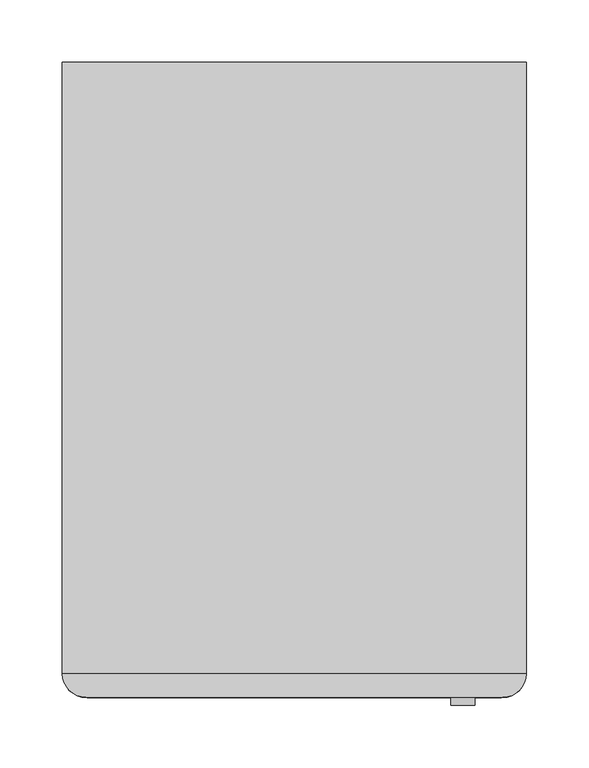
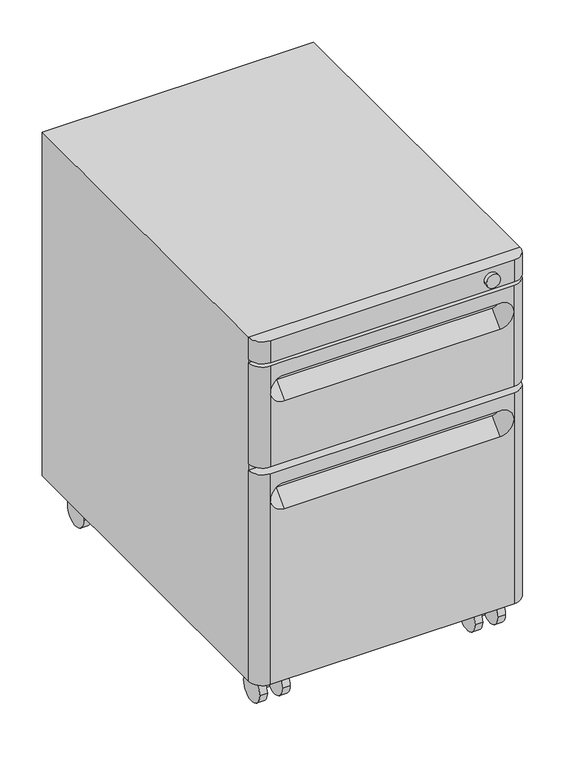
"""IFC4 building model written with IfcOpenShell, lengths in millimetres: furniture geometry."""

from ifc_helpers import new_model, si_unit, point, frame, frame_2d, origin, place, context, project, spatial, polyline, circle_curve, trimmed, segment, composite_curve, outline, extrude, source, transform, mapped, element, save
from ifc_brep_helpers import plane_surface, cylinder_surface, spline_surface, advanced_brep


def furniture_84c54a78(model_context):
    return source(origin(), model_context, "Body", "SolidModel", [
        advanced_brep(
        [(-166.6875, -263.525003, 354.0125), (166.6875, -263.525003, 354.0125), (185.7375, -244.475003, 354.0125), (-185.7375, -244.475003, 354.0125), (-166.6875, -263.525003, 49.2125), (-185.7375, -244.475003, 49.2125), (185.7375, -244.475003, 49.2125), (166.6875, -263.525003, 49.2125), (-166.6875, -263.525003, 315.9125), (-147.6375, -263.525003, 334.9625), (147.6375, -263.525003, 334.9625), (166.6875, -263.525003, 315.9125), (147.6375, -263.525003, 296.8625), (-147.6375, -263.525003, 296.8625), (147.6375, -244.475003, 334.9625), (-147.6375, -244.475003, 334.9625), (-147.6375, -244.475003, 315.9125), (147.6375, -244.475003, 315.9125)],
        [
            (0, 1),
            (1, 2, circle_curve(frame((166.6875, -244.475003, 354.0125), z_axis=(0.0, 0.0, 1.0), x_axis=(0.0, -1.0, 0.0)), 19.05)),
            (2, 3),
            (3, 0, circle_curve(frame((-166.6875, -244.475003, 354.0125), z_axis=(0.0, 0.0, 1.0), x_axis=(0.0, -1.0, 0.0)), 19.05)),
            (4, 5, circle_curve(frame((-166.6875, -244.475003, 49.2125), z_axis=(0.0, 0.0, -1.0), x_axis=(0.0, -1.0, 0.0)), 19.05)),
            (5, 6),
            (6, 7, circle_curve(frame((166.6875, -244.475003, 49.2125), z_axis=(0.0, 0.0, -1.0), x_axis=(0.0, -1.0, 0.0)), 19.05)),
            (7, 4),
            (0, 8),
            (8, 9, circle_curve(frame((-147.6375, -263.525003, 315.9125), z_axis=(0.0, 1.0, 0.0), x_axis=(0.0, 0.0, 1.0)), 19.05)),
            (9, 10),
            (10, 11, circle_curve(frame((147.6375, -263.525003, 315.9125), z_axis=(0.0, 1.0, 0.0), x_axis=(0.0, 0.0, 1.0)), 19.05)),
            (11, 1),
            (7, 11),
            (11, 12, circle_curve(frame((147.6375, -263.525003, 315.9125), z_axis=(0.0, 1.0, 0.0), x_axis=(0.0, 0.0, 1.0)), 19.05)),
            (12, 13),
            (13, 8, circle_curve(frame((-147.6375, -263.525003, 315.9125), z_axis=(0.0, 1.0, 0.0), x_axis=(0.0, 0.0, 1.0)), 19.05)),
            (8, 4),
            (6, 2),
            (5, 3),
            (14, 15),
            (15, 16, circle_curve(frame((-147.6375, -244.475003, 325.4375), z_axis=(0.0, -1.0, 0.0), x_axis=(0.0, 0.0, 1.0)), 9.525)),
            (16, 17),
            (17, 14, circle_curve(frame((147.6375, -244.475003, 325.4375), z_axis=(0.0, -1.0, 0.0), x_axis=(0.0, 0.0, 1.0)), 9.525)),
            (9, 15),
            (14, 10),
            (17, 12),
            (16, 13),
        ],
        [
            plane_surface(frame((166.6875, -263.525003, 354.0125), z_axis=(0.0, 0.0, 1.0), x_axis=(1.0, 0.0, 0.0))),
            plane_surface(frame((166.6875, -263.525003, 49.2125), z_axis=(0.0, 0.0, -1.0), x_axis=(-1.0, 0.0, 0.0))),
            plane_surface(frame((-166.6875, -263.525003, 354.0125), z_axis=(0.0, -1.0, 0.0), x_axis=(0.0, 0.0, -1.0))),
            cylinder_surface(frame((166.6875, -244.475003, 49.2125), z_axis=(0.0, 0.0, 1.0), x_axis=(0.0, -1.0, 0.0)), 19.05),
            plane_surface(frame((185.7375, -244.475003, 354.0125), z_axis=(0.0, 1.0, 0.0), x_axis=(0.0, 0.0, -1.0))),
            cylinder_surface(frame((-166.6875, -244.475003, 49.2125), z_axis=(0.0, 0.0, 1.0), x_axis=(0.0, -1.0, 0.0)), 19.05),
            plane_surface(frame((0.0, -263.525003, 334.9625), z_axis=(0.0, 0.0, -1.0), x_axis=(1.0, 0.0, 0.0))),
            spline_surface(1, 2, [[(147.6375, -263.525003, 334.9625), (166.68749999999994, -263.525003, 334.9625), (166.68749999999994, -263.525003, 315.9125), (166.6874999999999, -263.525003, 296.86250000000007), (147.6375, -263.525003, 296.8625)], [(147.6375, -244.475003, 334.9625), (157.16249999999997, -244.475003, 334.9625), (157.16249999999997, -244.475003, 325.4375), (157.16249999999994, -244.475003, 315.9125), (147.6375, -244.475003, 315.9125)]], [2, 2], [3, 2, 3], [0.0, 1.0], [0.0, 1.0, 2.0], weights=[[1.0, 0.7071067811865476, 1.0, 0.7071067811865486, 1.0], [1.0, 0.7071067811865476, 1.0, 0.7071067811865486, 1.0]]),
            plane_surface(frame((0.0, -263.525003, 296.8625), z_axis=(0.0, -0.7071067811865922, 0.7071067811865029), x_axis=(-1.0, 0.0, 0.0))),
            spline_surface(1, 2, [[(-147.6375, -263.525003, 296.8625), (-166.6875, -263.525003, 296.8625), (-166.6875, -263.525003, 315.9125), (-166.68750000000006, -263.525003, 334.96250000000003), (-147.6375, -263.525003, 334.9625)], [(-147.6375, -244.475003, 315.9125), (-157.16249999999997, -244.475003, 315.9125), (-157.16249999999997, -244.475003, 325.4375), (-157.1625, -244.475003, 334.9625), (-147.6375, -244.475003, 334.9625)]], [2, 2], [3, 2, 3], [0.0, 1.0], [0.0, 1.0, 2.0], weights=[[1.0, 0.7071067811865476, 1.0, 0.7071067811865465, 1.0], [1.0, 0.7071067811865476, 1.0, 0.7071067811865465, 1.0]]),
        ],
        [
            (0, [[1, 2, 3, 4]]),
            (1, [[5, 6, 7, 8]]),
            (2, [[-1, 9, 10, 11, 12, 13]]),
            (2, [[-8, 14, 15, 16, 17, 18]]),
            (3, [[-2, -13, -14, -7, 19]]),
            (4, [[-3, -19, -6, 20], [21, 22, 23, 24]]),
            (5, [[-4, -20, -5, -18, -9]]),
            (6, [[25, -21, 26, -11]]),
            (7, [[-26, -24, 27, -15, -12]]),
            (8, [[-27, -23, 28, -16]]),
            (9, [[-25, -10, -17, -28, -22]]),
        ],
    ),
        advanced_brep(
        [(166.6875, -263.525003, 509.5875), (185.7375, -244.475003, 509.5875), (-185.7375, -244.475003, 509.5875), (-166.6875, -263.525003, 509.5875), (166.6875, -263.525003, 363.5375121), (-166.6875, -263.525003, 363.5375121), (-185.7375, -244.475003, 363.5375121), (185.7375, -244.475003, 363.5375121), (166.6875, -263.525003, 471.4875), (-147.6375, -244.475003, 490.5375), (-147.6375, -244.475003, 471.4875), (147.6375, -244.475003, 471.4875), (147.6375, -244.475003, 490.5375), (-166.6875, -263.525003, 471.4875), (-147.6375, -263.525003, 490.5375), (147.6375, -263.525003, 490.5375), (147.6375, -263.525003, 452.4375), (-147.6375, -263.525003, 452.4375)],
        [
            (0, 1, circle_curve(frame((166.6875, -244.475003, 509.5875), z_axis=(0.0, 0.0, 1.0), x_axis=(0.0, -1.0, 0.0)), 19.05)),
            (1, 2),
            (2, 3, circle_curve(frame((-166.6875, -244.475003, 509.5875), z_axis=(0.0, 0.0, 1.0), x_axis=(0.0, -1.0, 0.0)), 19.05)),
            (3, 0),
            (4, 5),
            (5, 6, circle_curve(frame((-166.6875, -244.475003, 363.5375121), z_axis=(0.0, 0.0, -1.0), x_axis=(0.0, -1.0, 0.0)), 19.05)),
            (6, 7),
            (7, 4, circle_curve(frame((166.6875, -244.475003, 363.5375121), z_axis=(0.0, 0.0, -1.0), x_axis=(0.0, -1.0, 0.0)), 19.05)),
            (0, 8),
            (8, 4),
            (7, 1),
            (6, 2),
            (9, 10, circle_curve(frame((-147.6375, -244.475003, 481.0125), z_axis=(0.0, -1.0, 0.0), x_axis=(0.0, 0.0, 1.0)), 9.525)),
            (10, 11),
            (11, 12, circle_curve(frame((147.6375, -244.475003, 481.0125), z_axis=(0.0, -1.0, 0.0), x_axis=(0.0, 0.0, 1.0)), 9.525)),
            (12, 9),
            (5, 13),
            (13, 3),
            (13, 14, circle_curve(frame((-147.6375, -263.525003, 471.4875), z_axis=(0.0, 1.0, 0.0), x_axis=(0.0, 0.0, 1.0)), 19.05)),
            (14, 15),
            (15, 8, circle_curve(frame((147.6375, -263.525003, 471.4875), z_axis=(0.0, 1.0, 0.0), x_axis=(0.0, 0.0, 1.0)), 19.05)),
            (8, 16, circle_curve(frame((147.6375, -263.525003, 471.4875), z_axis=(0.0, 1.0, 0.0), x_axis=(0.0, 0.0, 1.0)), 19.05)),
            (16, 17),
            (17, 13, circle_curve(frame((-147.6375, -263.525003, 471.4875), z_axis=(0.0, 1.0, 0.0), x_axis=(0.0, 0.0, 1.0)), 19.05)),
            (17, 10),
            (9, 14),
            (12, 15),
            (11, 16),
        ],
        [
            plane_surface(frame((166.6875, -263.525003, 509.5875), z_axis=(0.0, 0.0, 1.0), x_axis=(1.0, 0.0, 0.0))),
            plane_surface(frame((166.6875, -263.525003, 363.5375121), z_axis=(0.0, 0.0, -1.0), x_axis=(-1.0, 0.0, 0.0))),
            cylinder_surface(frame((166.6875, -244.475003, 363.5375121), z_axis=(0.0, 0.0, 1.0), x_axis=(0.0, -1.0, 0.0)), 19.05),
            plane_surface(frame((185.7375, -244.475003, 509.5875), z_axis=(0.0, 1.0, 0.0), x_axis=(0.0, 0.0, -1.0))),
            cylinder_surface(frame((-166.6875, -244.475003, 363.5375121), z_axis=(0.0, 0.0, 1.0), x_axis=(0.0, -1.0, 0.0)), 19.05),
            plane_surface(frame((-166.6875, -263.525003, 509.5875), z_axis=(0.0, -1.0, 0.0), x_axis=(0.0, 0.0, -1.0))),
            spline_surface(1, 2, [[(-147.6375, -263.525003, 452.4375), (-166.6875, -263.525003, 452.4375), (-166.6875, -263.525003, 471.4875), (-166.6875, -263.525003, 490.5375), (-147.6375, -263.525003, 490.5375)], [(-147.6375, -244.475003, 471.4875), (-157.16249999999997, -244.475003, 471.4875), (-157.16249999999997, -244.475003, 481.0125), (-157.16249999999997, -244.475003, 490.53749999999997), (-147.6375, -244.475003, 490.5375)]], [2, 2], [3, 2, 3], [0.0, 1.0], [0.0, 1.0, 2.0], weights=[[1.0, 0.7071067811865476, 1.0, 0.7071067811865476, 1.0], [1.0, 0.7071067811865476, 1.0, 0.7071067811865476, 1.0]]),
            plane_surface(frame((0.0, -263.525003, 490.5375), z_axis=(0.0, 0.0, -1.0), x_axis=(1.0, 0.0, 0.0))),
            spline_surface(1, 2, [[(147.6375, -263.525003, 490.5375), (166.6875, -263.525003, 490.5375), (166.6875, -263.525003, 471.4875), (166.6875, -263.525003, 452.4375), (147.6375, -263.525003, 452.4375)], [(147.6375, -244.475003, 490.5375), (157.16250000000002, -244.475003, 490.5375), (157.16250000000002, -244.475003, 481.0125), (157.16250000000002, -244.475003, 471.48749999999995), (147.6375, -244.475003, 471.4875)]], [2, 2], [3, 2, 3], [0.0, 1.0], [0.0, 1.0, 2.0], weights=[[1.0, 0.7071067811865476, 1.0, 0.7071067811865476, 1.0], [1.0, 0.7071067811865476, 1.0, 0.7071067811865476, 1.0]]),
            plane_surface(frame((0.0, -263.525003, 452.4375), z_axis=(0.0, -0.7071067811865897, 0.7071067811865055), x_axis=(-1.0, 0.0, 0.0))),
        ],
        [
            (0, [[1, 2, 3, 4]]),
            (1, [[5, 6, 7, 8]]),
            (2, [[-1, 9, 10, -8, 11]]),
            (3, [[-2, -11, -7, 12], [13, 14, 15, 16]]),
            (4, [[-3, -12, -6, 17, 18]]),
            (5, [[-4, -18, 19, 20, 21, -9]]),
            (5, [[-5, -10, 22, 23, 24, -17]]),
            (6, [[25, -13, 26, -19, -24]]),
            (7, [[-26, -16, 27, -20]]),
            (8, [[-27, -15, 28, -22, -21]]),
            (9, [[-25, -23, -28, -14]]),
        ],
    ),
        extrude(outline(composite_curve([segment(trimmed(circle_curve(frame_2d((196.056253, 19.05)), 19.05), [point((177.006253, 19.05))], [point((215.106253, 19.05))], False, "CARTESIAN"), True, "CONTINUOUS"), segment(trimmed(circle_curve(frame_2d((196.056253, 19.05)), 19.05), [point((215.106253, 19.05))], [point((177.006253, 19.05))], False, "CARTESIAN"), True, "CONTINUOUS")], self_intersect=False)), frame((126.6825, 0.0, 0.0), z_axis=(1.0, 0.0, 0.0), x_axis=(0.0, 1.0, 0.0)), (0.0, 0.0, 1.0), 10.31875),
        extrude(outline(composite_curve([segment(trimmed(circle_curve(frame_2d((196.056253, 19.05)), 19.05), [point((177.006253, 19.05))], [point((215.106253, 19.05))], False, "CARTESIAN"), True, "CONTINUOUS"), segment(trimmed(circle_curve(frame_2d((196.056253, 19.05)), 19.05), [point((215.106253, 19.05))], [point((177.006253, 19.05))], False, "CARTESIAN"), True, "CONTINUOUS")], self_intersect=False)), frame((157.63875, 0.0, 0.0), z_axis=(1.0, 0.0, 0.0), x_axis=(0.0, 1.0, 0.0)), (0.0, 0.0, 1.0), 10.31875),
        extrude(outline(composite_curve([segment(trimmed(circle_curve(frame_2d((147.32, 208.756253)), 10.31875), [point((147.32, 198.437503))], [point((147.32, 219.075003))], False, "CARTESIAN"), True, "CONTINUOUS"), segment(trimmed(circle_curve(frame_2d((147.32, 208.756253)), 10.31875), [point((147.32, 219.075003))], [point((147.32, 198.437503))], False, "CARTESIAN"), True, "CONTINUOUS")], self_intersect=False)), frame((0.0, 0.0, 10.31875), z_axis=(0.0, 0.0, 1.0), x_axis=(1.0, 0.0, 0.0)), (0.0, 0.0, 1.0), 38.89375),
        extrude(outline(composite_curve([segment(trimmed(circle_curve(frame_2d((196.056253, 19.05)), 19.05), [point((177.006253, 19.05))], [point((215.106253, 19.05))], False, "CARTESIAN"), True, "CONTINUOUS"), segment(trimmed(circle_curve(frame_2d((196.056253, 19.05)), 19.05), [point((215.106253, 19.05))], [point((177.006253, 19.05))], False, "CARTESIAN"), True, "CONTINUOUS")], self_intersect=False)), frame((-167.9575, 0.0, 0.0), z_axis=(1.0, 0.0, 0.0), x_axis=(0.0, 1.0, 0.0)), (0.0, 0.0, 1.0), 10.31875),
        extrude(outline(composite_curve([segment(trimmed(circle_curve(frame_2d((196.056253, 19.05)), 19.05), [point((177.006253, 19.05))], [point((215.106253, 19.05))], False, "CARTESIAN"), True, "CONTINUOUS"), segment(trimmed(circle_curve(frame_2d((196.056253, 19.05)), 19.05), [point((215.106253, 19.05))], [point((177.006253, 19.05))], False, "CARTESIAN"), True, "CONTINUOUS")], self_intersect=False)), frame((-137.00125, 0.0, 0.0), z_axis=(1.0, 0.0, 0.0), x_axis=(0.0, 1.0, 0.0)), (0.0, 0.0, 1.0), 10.31875),
        extrude(outline(composite_curve([segment(trimmed(circle_curve(frame_2d((-147.32, 208.756253)), 10.31875), [point((-147.32, 198.437503))], [point((-147.32, 219.075003))], False, "CARTESIAN"), True, "CONTINUOUS"), segment(trimmed(circle_curve(frame_2d((-147.32, 208.756253)), 10.31875), [point((-147.32, 219.075003))], [point((-147.32, 198.437503))], False, "CARTESIAN"), True, "CONTINUOUS")], self_intersect=False)), frame((0.0, 0.0, 10.31875), z_axis=(0.0, 0.0, 1.0), x_axis=(1.0, 0.0, 0.0)), (0.0, 0.0, 1.0), 38.89375),
        extrude(outline(composite_curve([segment(trimmed(circle_curve(frame_2d((-221.456253, 19.05)), 19.05), [point((-240.506253, 19.05))], [point((-202.406253, 19.05))], False, "CARTESIAN"), True, "CONTINUOUS"), segment(trimmed(circle_curve(frame_2d((-221.456253, 19.05)), 19.05), [point((-202.406253, 19.05))], [point((-240.506253, 19.05))], False, "CARTESIAN"), True, "CONTINUOUS")], self_intersect=False)), frame((126.6825, 0.0, 0.0), z_axis=(1.0, 0.0, 0.0), x_axis=(0.0, 1.0, 0.0)), (0.0, 0.0, 1.0), 10.31875),
        extrude(outline(composite_curve([segment(trimmed(circle_curve(frame_2d((-221.456253, 19.05)), 19.05), [point((-240.506253, 19.05))], [point((-202.406253, 19.05))], False, "CARTESIAN"), True, "CONTINUOUS"), segment(trimmed(circle_curve(frame_2d((-221.456253, 19.05)), 19.05), [point((-202.406253, 19.05))], [point((-240.506253, 19.05))], False, "CARTESIAN"), True, "CONTINUOUS")], self_intersect=False)), frame((157.63875, 0.0, 0.0), z_axis=(1.0, 0.0, 0.0), x_axis=(0.0, 1.0, 0.0)), (0.0, 0.0, 1.0), 10.31875),
        extrude(outline(composite_curve([segment(trimmed(circle_curve(frame_2d((147.32, -208.756253)), 10.31875), [point((147.32, -219.075003))], [point((147.32, -198.437503))], False, "CARTESIAN"), True, "CONTINUOUS"), segment(trimmed(circle_curve(frame_2d((147.32, -208.756253)), 10.31875), [point((147.32, -198.437503))], [point((147.32, -219.075003))], False, "CARTESIAN"), True, "CONTINUOUS")], self_intersect=False)), frame((0.0, 0.0, 10.31875), z_axis=(0.0, 0.0, 1.0), x_axis=(1.0, 0.0, 0.0)), (0.0, 0.0, 1.0), 38.89375),
        extrude(outline(composite_curve([segment(trimmed(circle_curve(frame_2d((-221.456253, 19.05)), 19.05), [point((-240.506253, 19.05))], [point((-202.406253, 19.05))], False, "CARTESIAN"), True, "CONTINUOUS"), segment(trimmed(circle_curve(frame_2d((-221.456253, 19.05)), 19.05), [point((-202.406253, 19.05))], [point((-240.506253, 19.05))], False, "CARTESIAN"), True, "CONTINUOUS")], self_intersect=False)), frame((-167.9575, 0.0, 0.0), z_axis=(1.0, 0.0, 0.0), x_axis=(0.0, 1.0, 0.0)), (0.0, 0.0, 1.0), 10.31875),
        extrude(outline(composite_curve([segment(trimmed(circle_curve(frame_2d((-221.456253, 19.05)), 19.05), [point((-240.506253, 19.05))], [point((-202.406253, 19.05))], False, "CARTESIAN"), True, "CONTINUOUS"), segment(trimmed(circle_curve(frame_2d((-221.456253, 19.05)), 19.05), [point((-202.406253, 19.05))], [point((-240.506253, 19.05))], False, "CARTESIAN"), True, "CONTINUOUS")], self_intersect=False)), frame((-137.00125, 0.0, 0.0), z_axis=(1.0, 0.0, 0.0), x_axis=(0.0, 1.0, 0.0)), (0.0, 0.0, 1.0), 10.31875),
        extrude(outline(composite_curve([segment(trimmed(circle_curve(frame_2d((-147.32, -208.756253)), 10.31875), [point((-147.32, -219.075003))], [point((-147.32, -198.437503))], False, "CARTESIAN"), True, "CONTINUOUS"), segment(trimmed(circle_curve(frame_2d((-147.32, -208.756253)), 10.31875), [point((-147.32, -198.437503))], [point((-147.32, -219.075003))], False, "CARTESIAN"), True, "CONTINUOUS")], self_intersect=False)), frame((0.0, 0.0, 10.31875), z_axis=(0.0, 0.0, 1.0), x_axis=(1.0, 0.0, 0.0)), (0.0, 0.0, 1.0), 38.89375),
        extrude(outline(composite_curve([segment(trimmed(circle_curve(frame_2d((166.6875, -244.475003)), 19.0499939), [point((185.7374939, -244.475003))], [point((166.6875, -263.524997))], False, "CARTESIAN"), True, "CONTINUOUS"), segment(polyline([(166.6875, -263.524997), (-166.6875, -263.524997)]), True, "CONTINUOUS"), segment(trimmed(circle_curve(frame_2d((-166.6875, -244.475003)), 19.0499939), [point((-166.6875, -263.524997))], [point((-185.7374939, -244.475003))], False, "CARTESIAN"), True, "CONTINUOUS"), segment(polyline([(-185.7374939, -244.475003), (185.7374939, -244.475003)]), True, "CONTINUOUS")], self_intersect=False)), frame((0.0, 0.0, 514.35), z_axis=(0.0, 0.0, 1.0), x_axis=(1.0, 0.0, 0.0)), (0.0, 0.0, 1.0), 31.75),
        extrude(outline(polyline([(185.7375, 244.475003), (185.7375, -244.475003), (-185.7375, -244.475003), (-185.7375, 244.475003), (185.7375, 244.475003)])), frame((0.0, 0.0, 49.2125), z_axis=(0.0, 0.0, 1.0), x_axis=(1.0, 0.0, 0.0)), (0.0, 0.0, 1.0), 496.8875),
        extrude(outline(composite_curve([segment(trimmed(circle_curve(frame_2d((530.225, 134.9375121)), 9.525), [point((530.225, 144.4625121))], [point((530.225, 125.4125121))], False, "CARTESIAN"), True, "CONTINUOUS"), segment(trimmed(circle_curve(frame_2d((530.225, 134.9375121)), 9.525), [point((530.225, 125.4125121))], [point((530.225, 144.4625121))], False, "CARTESIAN"), True, "CONTINUOUS")], self_intersect=False)), frame((0.0, -269.8749972, 0.0), z_axis=(0.0, 1.0, 0.0), x_axis=(0.0, 0.0, 1.0)), (0.0, 0.0, 1.0), 6.3500002),
    ])


if __name__ == "__main__":
    model = new_model("IFC4")
    model_context = context("Model", 3, world=origin())
    ifc_project = project(units=[si_unit("LENGTHUNIT", "METRE", prefix="MILLI")], contexts=[model_context])
    site = spatial("IfcSite", under=ifc_project)
    building = spatial("IfcBuilding", under=site)
    placement = place(None, origin())
    furniture_shape = furniture_84c54a78(model_context)
    element("IfcFurniture", 1, ObjectType="HermanMiller_QuadrantFiling_G5111_MobilePedestal : 21-1/2\"H x 20\"D x 15\"W BF", at=placement, inside=building, context=model_context, shape_type="MappedRepresentation", body=[
        mapped(furniture_shape, transform((0.0, 0.0, 0.0), x_axis=(1.0, 0.0, 0.0), y_axis=(0.0, 1.0, 0.0), z_axis=(0.0, 0.0, 1.0))),
    ])
    save(model, "model.ifc")
